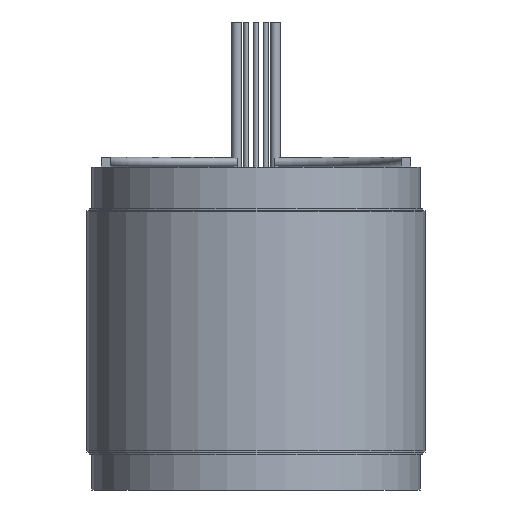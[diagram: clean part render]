
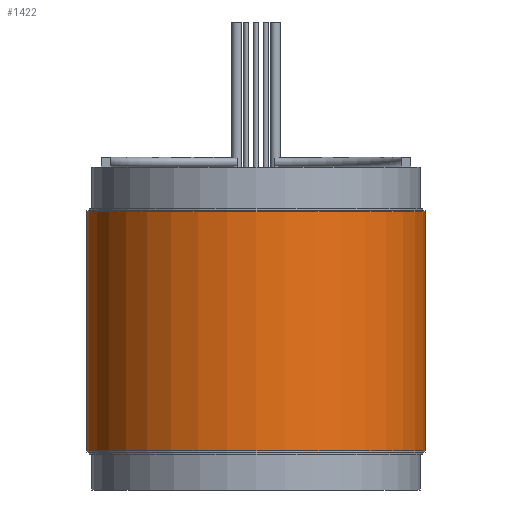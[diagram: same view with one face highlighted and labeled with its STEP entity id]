
A CAD part, front view. The second image highlights one B-rep face of the part: STEP entity #1422.
In plain terms, the highlighted cylindrical face has radius 44.45 mm (diameter 88.9 mm), a full revolution.
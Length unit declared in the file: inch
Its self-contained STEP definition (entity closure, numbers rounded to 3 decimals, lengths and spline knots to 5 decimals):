
#33 = CARTESIAN_POINT ( 'NONE',  ( 0., 0., 1.236 ) ) ;
#87 = DIRECTION ( 'NONE',  ( 0., 0., 1. ) ) ;
#109 = DIRECTION ( 'NONE',  ( 1., 0., 0. ) ) ;
#154 = CIRCLE ( 'NONE', #603, 1.75 ) ;
#177 = EDGE_CURVE ( 'NONE', #1572, #1572, #154, .T. ) ;
#519 = EDGE_LOOP ( 'NONE', ( #1116 ) ) ;
#548 = CARTESIAN_POINT ( 'NONE',  ( 1.75, 0., 1.236 ) ) ;
#577 = EDGE_CURVE ( 'NONE', #1374, #1374, #1187, .T. ) ;
#603 = AXIS2_PLACEMENT_3D ( 'NONE', #33, #1371, #1113 ) ;
#930 = EDGE_LOOP ( 'NONE', ( #1533 ) ) ;
#961 = CARTESIAN_POINT ( 'NONE',  ( 1.75, 0., -1.236 ) ) ;
#1035 = FACE_OUTER_BOUND ( 'NONE', #930, .T. ) ;
#1057 = DIRECTION ( 'NONE',  ( 0., 0., 1. ) ) ;
#1075 = CYLINDRICAL_SURFACE ( 'NONE', #1628, 1.75 ) ;
#1113 = DIRECTION ( 'NONE',  ( 1., 0., 0. ) ) ;
#1116 = ORIENTED_EDGE ( 'NONE', *, *, #577, .T. ) ;
#1187 = CIRCLE ( 'NONE', #1580, 1.75 ) ;
#1225 = DIRECTION ( 'NONE',  ( 1., 0., 0. ) ) ;
#1371 = DIRECTION ( 'NONE',  ( 0., 0., 1. ) ) ;
#1374 = VERTEX_POINT ( 'NONE', #961 ) ;
#1422 = ADVANCED_FACE ( 'NONE', ( #1035, #1571 ), #1075, .T. ) ;
#1533 = ORIENTED_EDGE ( 'NONE', *, *, #177, .F. ) ;
#1571 = FACE_OUTER_BOUND ( 'NONE', #519, .T. ) ;
#1572 = VERTEX_POINT ( 'NONE', #548 ) ;
#1580 = AXIS2_PLACEMENT_3D ( 'NONE', #1598, #1057, #1225 ) ;
#1598 = CARTESIAN_POINT ( 'NONE',  ( 0., 0., -1.236 ) ) ;
#1628 = AXIS2_PLACEMENT_3D ( 'NONE', #1717, #87, #109 ) ;
#1717 = CARTESIAN_POINT ( 'NONE',  ( 0., 0., -1.27 ) ) ;
